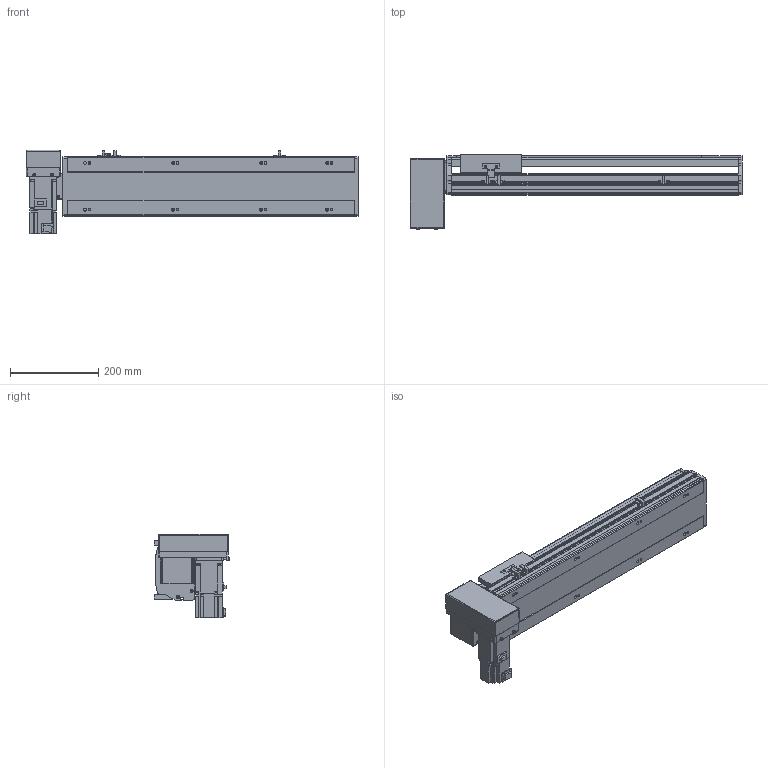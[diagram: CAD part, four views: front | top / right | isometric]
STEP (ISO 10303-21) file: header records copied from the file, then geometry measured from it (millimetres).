
FILE_DESCRIPTION(/* description */ ('STEP AP214'),/* implementation_level */ '2;1');
FILE_NAME(/* name */ 'PBS140S-P40-S400-RD-T40-C1-N(0)',/* time_stamp */ '2022-06-09T02:42:01+02:00',/* author */ ('License CC BY-ND 4.0'),/* organization */ ('CADENAS'),/* preprocessor_version */ 'ST-DEVELOPER v18.102',/* originating_system */ 'PARTsolutions',/* authorisation */ ' ');
FILE_SCHEMA (('AUTOMOTIVE_DESIGN {1 0 10303 214 3 1 1}'));
Length unit declared in the file: millimetre
Products named in the file (7): PBS140S-P40-S400-RD-T40-C1-N(0); PBS140S_sensor; PBS140S_plant; PBS140S_sliser; T40-p1; PBS140ST-RD_motors; PBS140S-S400()_body
Assembly tree (8 placements, depth 2):
  PBS140S-P40-S400-RD-T40-C1-N(0)
    PBS140S_sensor  x3
    PBS140S_plant
    PBS140S_sliser
    T40-p1
    PBS140ST-RD_motors
    PBS140S-S400()_body
Bounding box: 754 x 172.5 x 189.7 mm (x, y, z)
Volume: 4307726.8 mm3; surface area: 771795.5 mm2
Topology: 8 solids, 8 shells, 1035 faces, 2751 edges, 1801 vertices
Faces by surface type: plane 678, cylinder 313, cone 34, sphere 8, torus 2
Full cylindrical faces by diameter (mm): 3.242 x4, 4 x2, 4.134 x4, 4.4 x8, 4.5 x2, 4.8 x4, 4.917 x16, 5.5 x7, 6 x2, 7 x10, 7.5 x8, 8 x12, 8.5 x4, 10.5 x8, 14 x1, 30 x2, 50 x2
Entity records: 29664 total; most frequent: CARTESIAN_POINT 5368, DIRECTION 5068, ORIENTED_EDGE 4822, EDGE_CURVE 2411, AXIS2_PLACEMENT_3D 1739, VERTEX_POINT 1657, LINE 1590, VECTOR 1590
